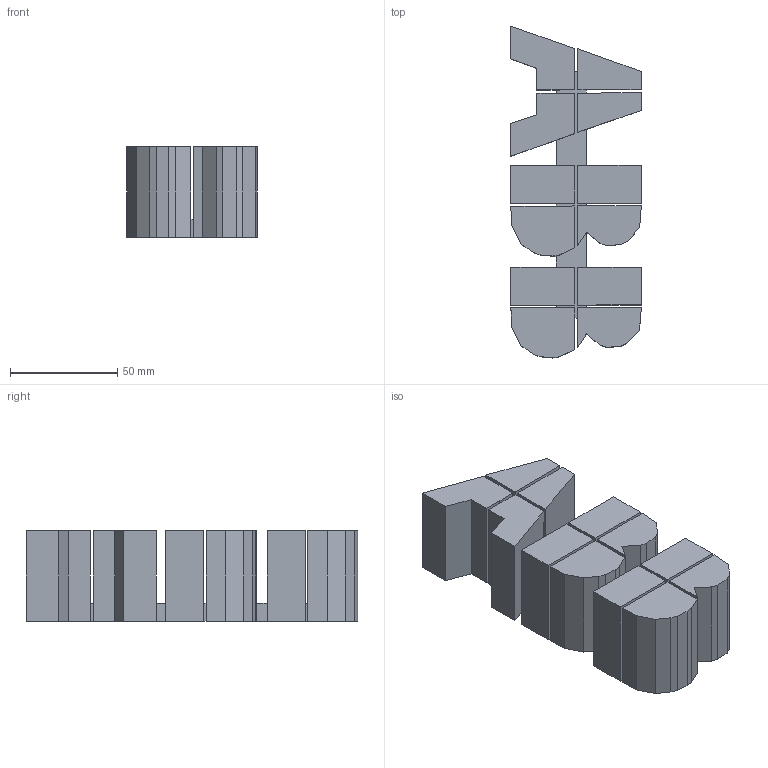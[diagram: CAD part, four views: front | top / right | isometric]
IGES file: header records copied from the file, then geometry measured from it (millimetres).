
Start section: SolidWorks IGES file using analytic representation for surfaces
Global section: file name: B:\Robotics\SEROP_PROJ\Product Development\DevelopmentProjects\RobCal\Design\CAD simuleringsmodeller\Till_RobotStudio\IRB6700-HL\IRB6700_235-265_IRC5_rev02\IRB6700_235-265_IRC5_rev02_IGES_j\IRB6700_235-265_IRC5_rev00_LOGO1_CAD.IGS; native system: SolidWorks 2014; preprocessor: SolidWorks 2014; author: SEEMTHE; date: 160127.112316; units: millimetre
Bounding box: 60.85 x 154.47 x 42.29 mm (x, y, z)
Surface area: 59870 mm2 (no closed solid volume)
Topology: 0 solids, 0 shells, 104 faces, 598 edges, 598 vertices
Faces by surface type: bspline 104
